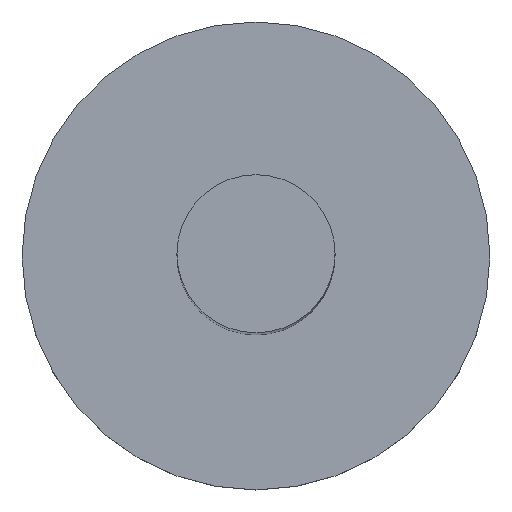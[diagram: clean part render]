
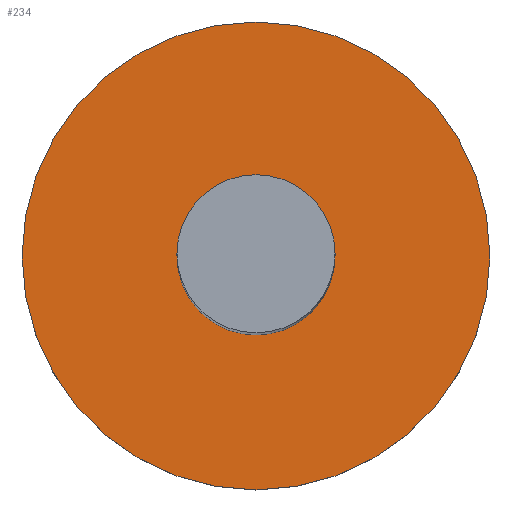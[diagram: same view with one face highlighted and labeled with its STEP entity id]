
A CAD part, top view. The second image highlights one B-rep face of the part: STEP entity #234.
In plain terms, the highlighted planar face has unit normal (0, 0, 1).
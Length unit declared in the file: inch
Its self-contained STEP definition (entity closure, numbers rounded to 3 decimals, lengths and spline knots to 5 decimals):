
#8 = VERTEX_POINT ( 'NONE', #342 ) ;
#9 = CIRCLE ( 'NONE', #358, 0.037 ) ;
#11 = EDGE_CURVE ( 'NONE', #194, #77, #197, .T. ) ;
#24 = DIRECTION ( 'NONE',  ( 1., 0., 0. ) ) ;
#34 = AXIS2_PLACEMENT_3D ( 'NONE', #316, #76, #166 ) ;
#45 = EDGE_LOOP ( 'NONE', ( #48, #73 ) ) ;
#48 = ORIENTED_EDGE ( 'NONE', *, *, #11, .T. ) ;
#67 = CARTESIAN_POINT ( 'NONE',  ( 0., 0., 0.062 ) ) ;
#70 = CIRCLE ( 'NONE', #383, 0.0125 ) ;
#72 = ORIENTED_EDGE ( 'NONE', *, *, #288, .F. ) ;
#73 = ORIENTED_EDGE ( 'NONE', *, *, #95, .T. ) ;
#76 = DIRECTION ( 'NONE',  ( 0., 0., 1. ) ) ;
#77 = VERTEX_POINT ( 'NONE', #264 ) ;
#85 = DIRECTION ( 'NONE',  ( 0., 0., 1. ) ) ;
#92 = CARTESIAN_POINT ( 'NONE',  ( -0.0125, 0., 0.062 ) ) ;
#95 = EDGE_CURVE ( 'NONE', #77, #194, #9, .T. ) ;
#113 = DIRECTION ( 'NONE',  ( 0., 0., 1. ) ) ;
#120 = DIRECTION ( 'NONE',  ( 1., 0., 0. ) ) ;
#132 = AXIS2_PLACEMENT_3D ( 'NONE', #67, #85, #120 ) ;
#148 = VERTEX_POINT ( 'NONE', #92 ) ;
#166 = DIRECTION ( 'NONE',  ( 1., 0., 0. ) ) ;
#194 = VERTEX_POINT ( 'NONE', #364 ) ;
#197 = CIRCLE ( 'NONE', #34, 0.037 ) ;
#203 = DIRECTION ( 'NONE',  ( 1., 0., 0. ) ) ;
#207 = FACE_BOUND ( 'NONE', #369, .T. ) ;
#210 = PLANE ( 'NONE',  #132 ) ;
#214 = AXIS2_PLACEMENT_3D ( 'NONE', #271, #113, #24 ) ;
#221 = ORIENTED_EDGE ( 'NONE', *, *, #265, .F. ) ;
#229 = CARTESIAN_POINT ( 'NONE',  ( 0., 0., 0.062 ) ) ;
#234 = ADVANCED_FACE ( 'NONE', ( #207, #293 ), #210, .T. ) ;
#260 = DIRECTION ( 'NONE',  ( 0., 0., 1. ) ) ;
#264 = CARTESIAN_POINT ( 'NONE',  ( 0.037, 0., 0.062 ) ) ;
#265 = EDGE_CURVE ( 'NONE', #148, #8, #70, .T. ) ;
#271 = CARTESIAN_POINT ( 'NONE',  ( 0., 0., 0.062 ) ) ;
#285 = CIRCLE ( 'NONE', #214, 0.0125 ) ;
#288 = EDGE_CURVE ( 'NONE', #8, #148, #285, .T. ) ;
#293 = FACE_OUTER_BOUND ( 'NONE', #45, .T. ) ;
#316 = CARTESIAN_POINT ( 'NONE',  ( 0., 0., 0.062 ) ) ;
#324 = CARTESIAN_POINT ( 'NONE',  ( 0., 0., 0.062 ) ) ;
#342 = CARTESIAN_POINT ( 'NONE',  ( 0.0125, 0., 0.062 ) ) ;
#349 = DIRECTION ( 'NONE',  ( 1., 0., 0. ) ) ;
#358 = AXIS2_PLACEMENT_3D ( 'NONE', #229, #260, #349 ) ;
#364 = CARTESIAN_POINT ( 'NONE',  ( -0.037, 0., 0.062 ) ) ;
#369 = EDGE_LOOP ( 'NONE', ( #221, #72 ) ) ;
#381 = DIRECTION ( 'NONE',  ( 0., 0., 1. ) ) ;
#383 = AXIS2_PLACEMENT_3D ( 'NONE', #324, #381, #203 ) ;
